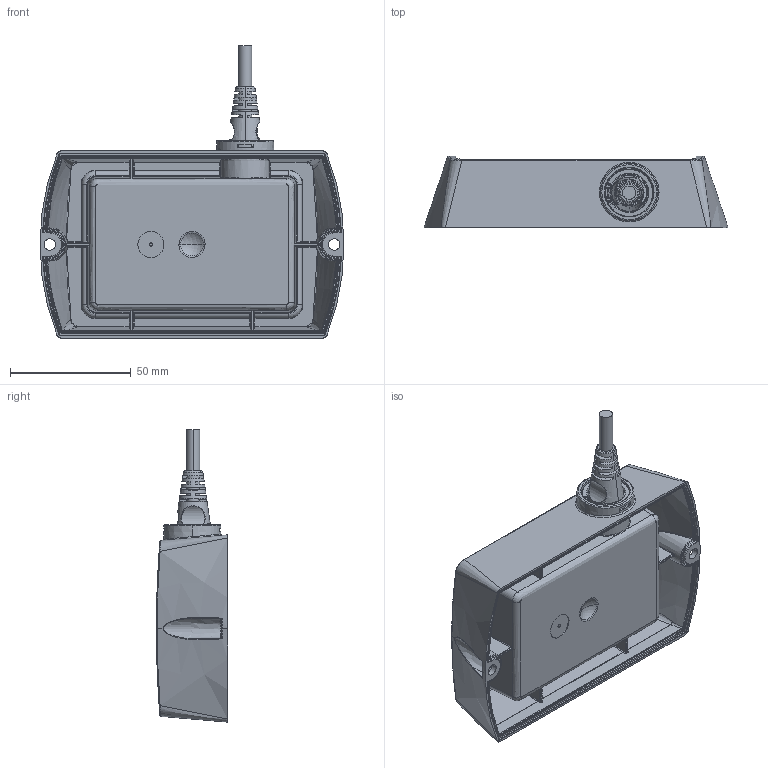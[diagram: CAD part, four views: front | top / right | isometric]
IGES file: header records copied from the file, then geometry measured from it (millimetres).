
Start section:  PTC IGES file: acc.igs
Global section: file name: acc.igs; native system: Pro/ENGINEER by Parametric Technology Corporation; preprocessor: 2005110; author: KH; organization: Unknown; date: 060323.075004; units: millimetre
Bounding box: 125.7 x 29.5 x 120.86 mm (x, y, z)
Volume: 159848 mm3; surface area: 44865.2 mm2
Topology: 1 solids, 1 shells, 671 faces, 1675 edges, 984 vertices
Faces by surface type: revolution 371, bspline 300
